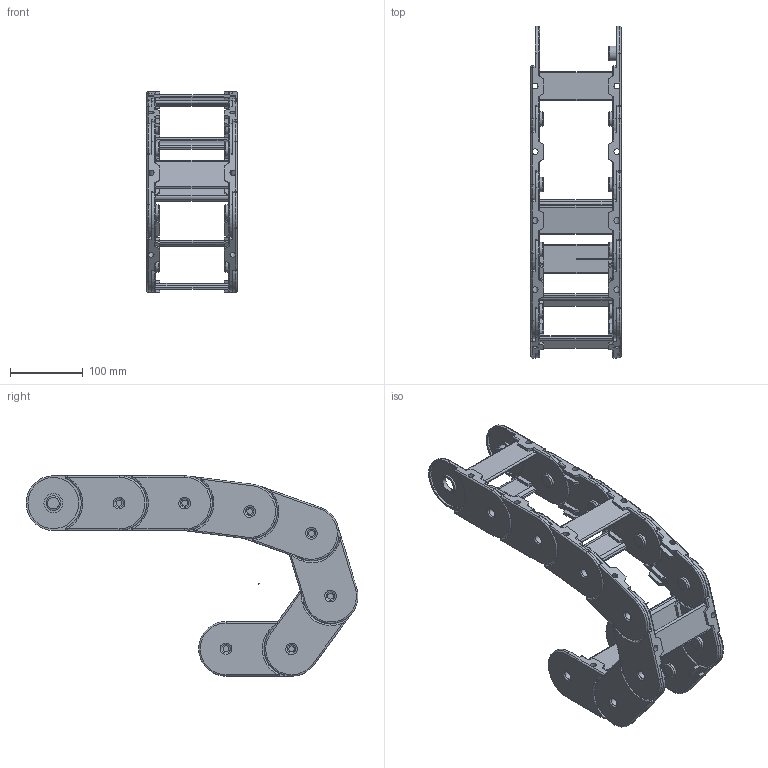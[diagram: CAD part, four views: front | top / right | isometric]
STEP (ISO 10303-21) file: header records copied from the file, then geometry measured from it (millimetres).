
FILE_DESCRIPTION((''),'2;1');
FILE_NAME('E:\Uebbing\PARAMETERKETTEN\PKK\PKK 311\PKK311vereinfacht\PKK 310 vereinfacht.stp','2017-11-13T13:10:31',('Nutzer'),(''),'Autodesk Inventor 10','Autodesk Inventor 10','');
FILE_SCHEMA(('AUTOMOTIVE_DESIGN { 1 0 10303 214 1 1 1 1 }'));
Length unit declared in the file: millimetre
Products named in the file (4): PKK 311 vereinfacht; PKK 311 Glied vereinfacht; Achse; PKK 310 Glied vereinfacht
Assembly tree (8 placements, depth 2):
  PKK 311 vereinfacht
    PKK 311 Glied vereinfacht  x4
    Achse
    PKK 310 Glied vereinfacht  x3
Bounding box: 124 x 455.31 x 275 mm (x, y, z)
Volume: 1048355.6 mm3; surface area: 501769.4 mm2
Topology: 11 solids, 11 shells, 1173 faces, 3016 edges, 1857 vertices
Faces by surface type: plane 596, cylinder 339, torus 140, sphere 56, bspline 42
Full cylindrical faces by diameter (mm): 1 x1, 8 x14, 12 x14, 20 x14, 20.2 x14, 26 x28, 70 x28
Entity records: 11416 total; most frequent: CARTESIAN_POINT 3203, DIRECTION 1786, ORIENTED_EDGE 1592, EDGE_CURVE 796, AXIS2_PLACEMENT_3D 685, VERTEX_POINT 526, VECTOR 416, LINE 416
